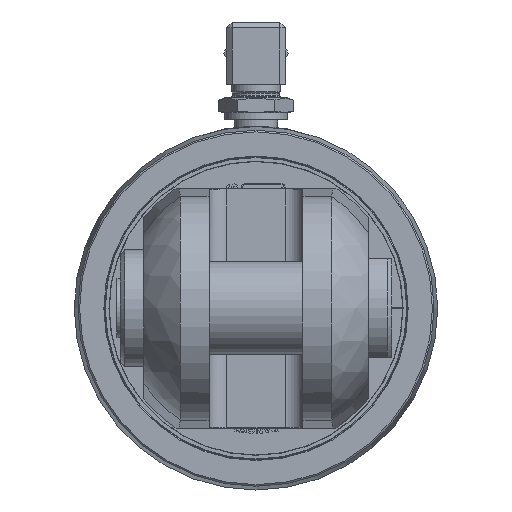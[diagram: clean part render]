
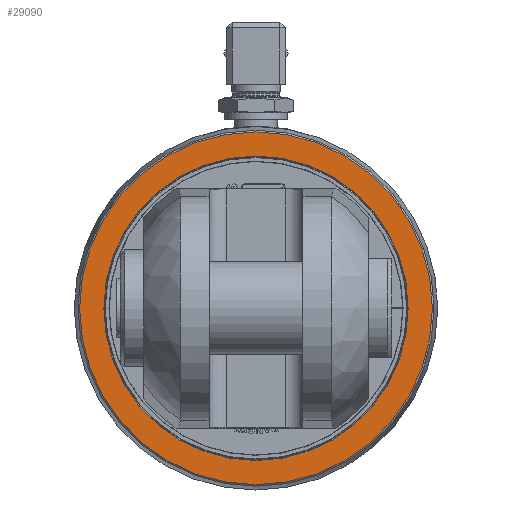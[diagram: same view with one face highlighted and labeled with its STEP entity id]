
A CAD part, left-side view. The second image highlights one B-rep face of the part: STEP entity #29090.
In plain terms, the highlighted planar face has unit normal (-1, 0, 0).
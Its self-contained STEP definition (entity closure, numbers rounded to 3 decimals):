
#94=CIRCLE('',#30797,59.988);
#96=CIRCLE('',#30801,51.75);
#975=PLANE('',#30800);
#3488=FACE_BOUND('',#5471,.T.);
#3804=FACE_OUTER_BOUND('',#5470,.T.);
#5470=EDGE_LOOP('',(#20927));
#5471=EDGE_LOOP('',(#20928));
#13811=VERTEX_POINT('',#37986);
#13813=VERTEX_POINT('',#37992);
#16633=EDGE_CURVE('',#13811,#13811,#94,.T.);
#16635=EDGE_CURVE('',#13813,#13813,#96,.T.);
#20927=ORIENTED_EDGE('',*,*,#16633,.F.);
#20928=ORIENTED_EDGE('',*,*,#16635,.F.);
#29090=ADVANCED_FACE('',(#3804,#3488),#975,.F.);
#30797=AXIS2_PLACEMENT_3D('',#37987,#32319,#32320);
#30800=AXIS2_PLACEMENT_3D('',#37991,#32325,#32326);
#30801=AXIS2_PLACEMENT_3D('',#37993,#32327,#32328);
#32319=DIRECTION('center_axis',(1.,0.,0.));
#32320=DIRECTION('ref_axis',(0.,-1.,0.));
#32325=DIRECTION('center_axis',(1.,0.,0.));
#32326=DIRECTION('ref_axis',(0.,0.,-1.));
#32327=DIRECTION('center_axis',(-1.,0.,0.));
#32328=DIRECTION('ref_axis',(0.,-1.,0.));
#37986=CARTESIAN_POINT('',(-715.5,59.988,0.));
#37987=CARTESIAN_POINT('Origin',(-715.5,0.,0.));
#37991=CARTESIAN_POINT('Origin',(-715.5,0.,0.));
#37992=CARTESIAN_POINT('',(-715.5,51.75,0.));
#37993=CARTESIAN_POINT('Origin',(-715.5,0.,0.));
